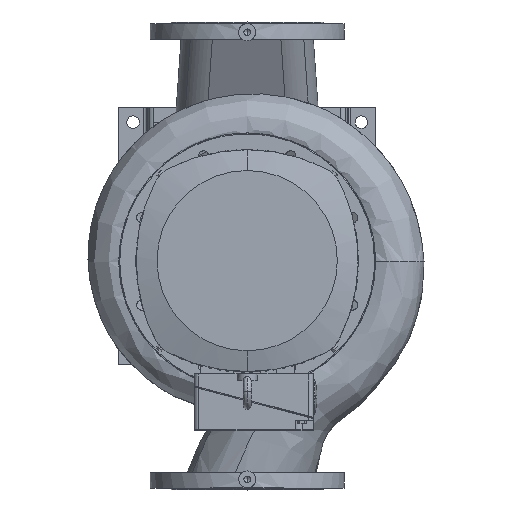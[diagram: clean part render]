
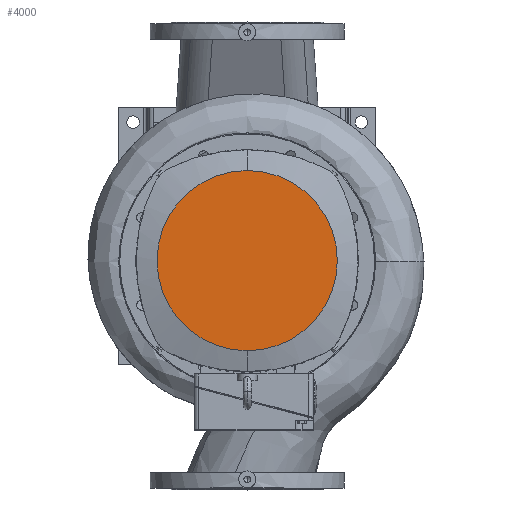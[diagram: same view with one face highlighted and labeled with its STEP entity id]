
A CAD part, top view. The second image highlights one B-rep face of the part: STEP entity #4000.
In plain terms, the highlighted planar face has unit normal (0, 0, 1).
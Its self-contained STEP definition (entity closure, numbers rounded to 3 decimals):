
#4000=ADVANCED_FACE('',(#8119),#8120,.T.);
#8119=FACE_OUTER_BOUND('',#14895,.T.);
#8120=PLANE('',#14896);
#14895=EDGE_LOOP('',(#25269,#25270));
#14896=AXIS2_PLACEMENT_3D('',#25271,#25272,#25273);
#25269=ORIENTED_EDGE('',*,*,#28175,.T.);
#25270=ORIENTED_EDGE('',*,*,#28127,.T.);
#25271=CARTESIAN_POINT('',(-1148.903,-2235.679,139.165));
#25272=DIRECTION('',(0.0,0.0,1.0));
#25273=DIRECTION('',(0.0,-1.0,0.0));
#28127=EDGE_CURVE('',#32703,#32701,#32704,.T.);
#28175=EDGE_CURVE('',#32701,#32703,#32780,.T.);
#32701=VERTEX_POINT('',#40542);
#32703=VERTEX_POINT('',#40545);
#32704=CIRCLE('',#40546,158.0);
#32780=CIRCLE('',#41232,158.0);
#40542=CARTESIAN_POINT('',(-1149.27,-2077.679,139.165));
#40545=CARTESIAN_POINT('',(-1149.27,-2393.679,139.165));
#40546=AXIS2_PLACEMENT_3D('',#51850,#51851,#51852);
#41232=AXIS2_PLACEMENT_3D('',#51908,#51909,#51910);
#51850=CARTESIAN_POINT('',(-1149.27,-2235.679,139.165));
#51851=DIRECTION('',(0.0,-0.0,1.0));
#51852=DIRECTION('',(0.0,1.0,0.0));
#51908=CARTESIAN_POINT('',(-1149.27,-2235.679,139.165));
#51909=DIRECTION('',(0.0,-0.0,1.0));
#51910=DIRECTION('',(0.0,1.0,0.0));
